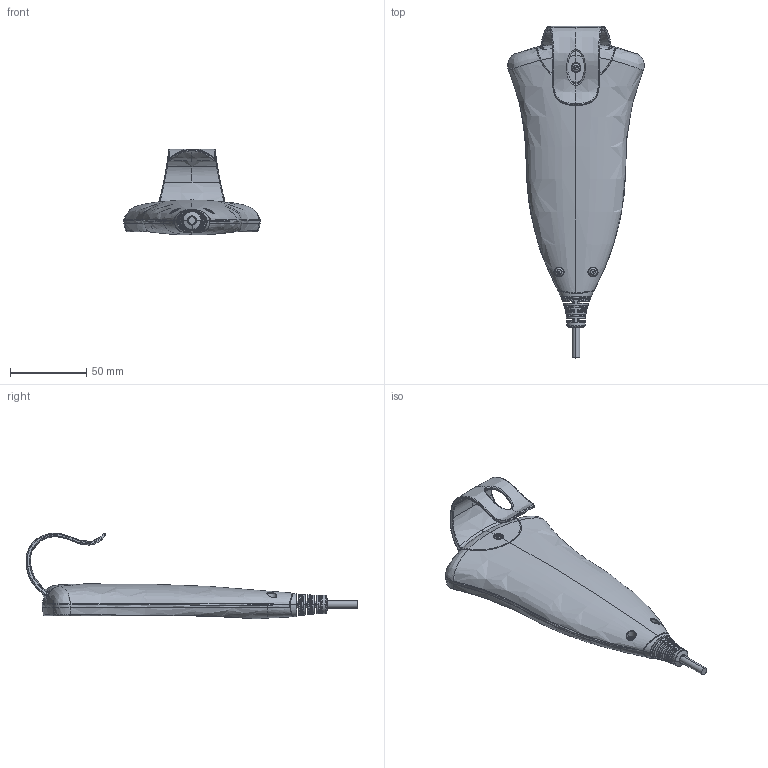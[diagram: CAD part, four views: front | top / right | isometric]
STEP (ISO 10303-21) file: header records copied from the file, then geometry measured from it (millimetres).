
FILE_DESCRIPTION (( 'STEP AP203' ), '1' );
FILE_NAME ('TMH9-A.STEP', '2018-07-06T02:39:28', ( '' ), ( '' ), 'SwSTEP 2.0', 'SolidWorks 2015', '' );
FILE_SCHEMA (( 'CONFIG_CONTROL_DESIGN' ));
Length unit declared in the file: millimetre
Products named in the file (1): TMH9-A
Bounding box: 89.43 x 217.31 x 56 mm (x, y, z)
Volume: 176973.5 mm3; surface area: 73993.9 mm2
Topology: 17 solids, 18 shells, 811 faces, 1928 edges, 1186 vertices
Faces by surface type: bspline 282, plane 242, cylinder 153, torus 106, cone 26, sphere 2
Entity records: 60427 total; most frequent: CARTESIAN_POINT 43756, ORIENTED_EDGE 3834, DIRECTION 2851, EDGE_CURVE 1917, VERTEX_POINT 1183, AXIS2_PLACEMENT_3D 1100, EDGE_LOOP 854, FACE_OUTER_BOUND 811
